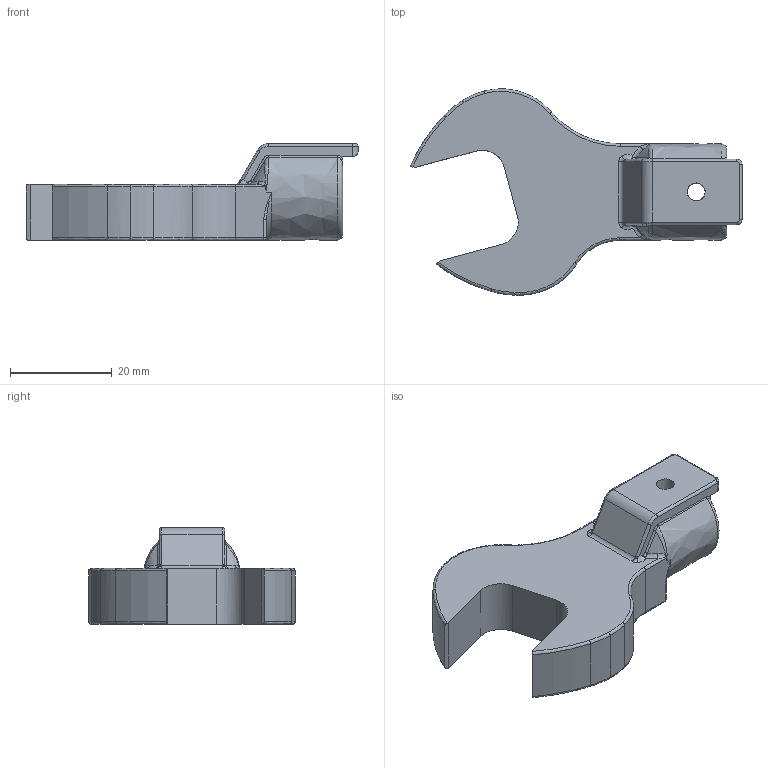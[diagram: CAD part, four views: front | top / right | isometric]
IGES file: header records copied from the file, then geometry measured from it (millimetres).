
Global section: file name: SH12DX19; native system: Autodesk Inventor 2016; preprocessor: unknown; author: Q510A; date: 20151029.190156; units: millimetre
Bounding box: 65.24 x 40.55 x 19 mm (x, y, z)
Volume: 14323.3 mm3; surface area: 5728 mm2
Topology: 1 solids, 1 shells, 120 faces, 306 edges, 179 vertices
Faces by surface type: bspline 120
